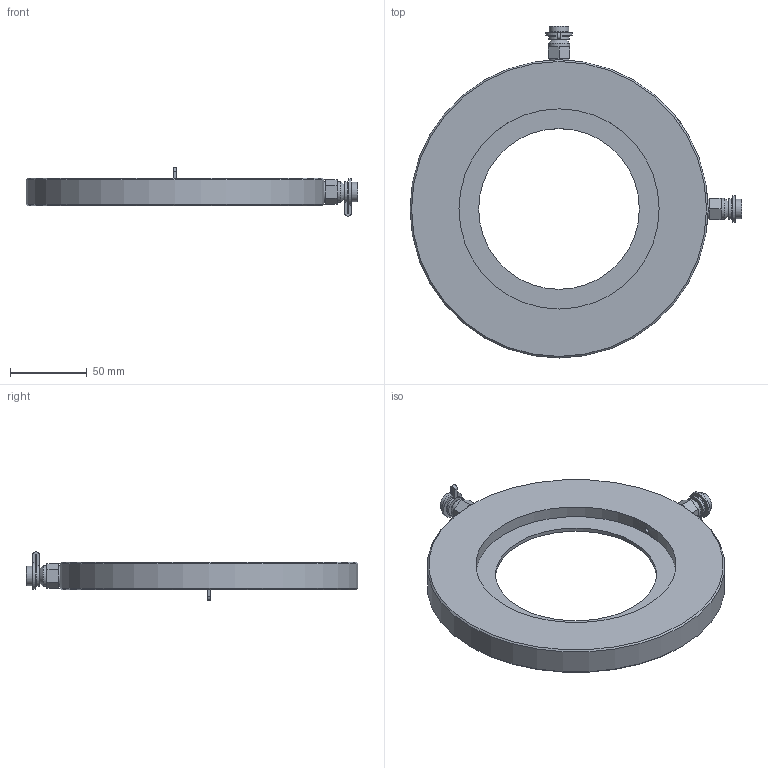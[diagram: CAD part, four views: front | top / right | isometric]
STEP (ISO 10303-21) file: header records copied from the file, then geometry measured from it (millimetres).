
FILE_DESCRIPTION((''),'2;1');
FILE_NAME('P:\Fastrack\53972_CRANE 3D\Workspace\DM900_DN125\DM900_DN125.stp','2010-12-23T10:56:01',('btaylor'),(''),'Autodesk Inventor 2008','Autodesk Inventor 2008','');
FILE_SCHEMA(('AUTOMOTIVE_DESIGN { 1 0 10303 214 1 1 1 1 }'));
Length unit declared in the file: millimetre
Products named in the file (1): DM900_DN125
Bounding box: 216.1 x 216.1 x 31.45 mm (x, y, z)
Volume: 309680.3 mm3; surface area: 62945.4 mm2
Topology: 1 solids, 1 shells, 103 faces, 231 edges, 149 vertices
Faces by surface type: plane 48, cylinder 29, bspline 18, cone 8
Full cylindrical faces by diameter (mm): 3.2 x2, 7.4 x2, 11 x2, 12.7 x2, 13.7 x2, 104.61 x1, 130.3 x2, 194 x1
Entity records: 7523 total; most frequent: CARTESIAN_POINT 5292, ORIENTED_EDGE 392, DIRECTION 390, EDGE_CURVE 196, EDGE_LOOP 152, AXIS2_PLACEMENT_3D 150, VERTEX_POINT 138, STYLED_ITEM 104
